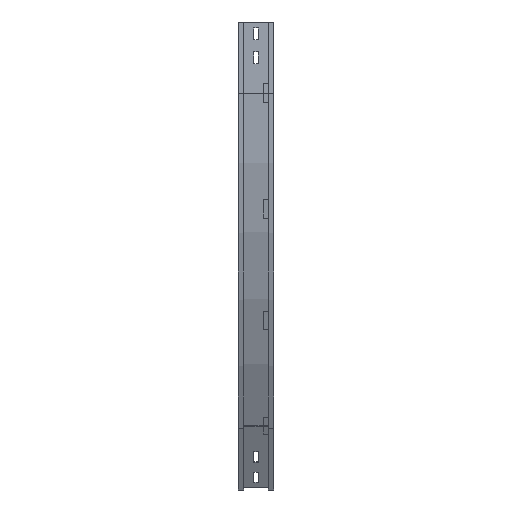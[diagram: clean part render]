
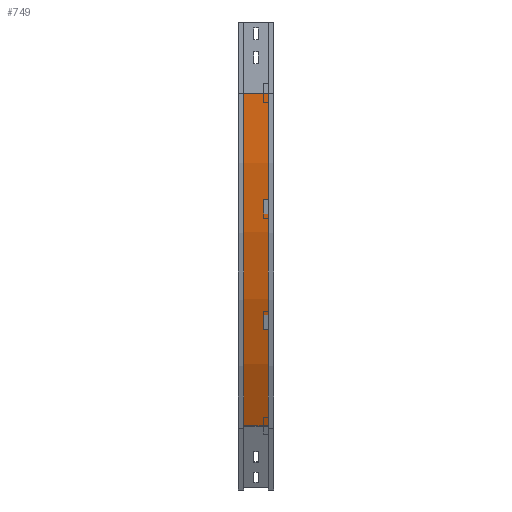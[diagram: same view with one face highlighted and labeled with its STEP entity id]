
A CAD part, left-side view. The second image highlights one B-rep face of the part: STEP entity #749.
In plain terms, the highlighted cylindrical face has radius 1400 mm (diameter 2800 mm), a partial arc.
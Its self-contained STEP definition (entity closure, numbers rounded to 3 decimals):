
#155 = DIRECTION ( 'NONE',  ( 0., -1., 0. ) ) ;
#267 = EDGE_CURVE ( 'NONE', #662, #1632, #2316, .T. ) ;
#405 = FACE_OUTER_BOUND ( 'NONE', #1973, .T. ) ;
#434 = CARTESIAN_POINT ( 'NONE',  ( 9., 12., -150. ) ) ;
#484 = CARTESIAN_POINT ( 'NONE',  ( 9., 12., -150. ) ) ;
#486 = DIRECTION ( 'NONE',  ( -1., 0., 0. ) ) ;
#490 = VECTOR ( 'NONE', #760, 1000. ) ;
#662 = VERTEX_POINT ( 'NONE', #1424 ) ;
#682 = CYLINDRICAL_SURFACE ( 'NONE', #2872, 1400. ) ;
#743 = VERTEX_POINT ( 'NONE', #434 ) ;
#749 = ADVANCED_FACE ( 'NONE', ( #405 ), #682, .T. ) ;
#760 = DIRECTION ( 'NONE',  ( 0., -1., 0. ) ) ;
#825 = EDGE_CURVE ( 'NONE', #743, #1632, #2656, .T. ) ;
#966 = DIRECTION ( 'NONE',  ( 0., -1., 0. ) ) ;
#984 = CARTESIAN_POINT ( 'NONE',  ( 1409., 0., -150. ) ) ;
#1104 = ORIENTED_EDGE ( 'NONE', *, *, #825, .F. ) ;
#1158 = ORIENTED_EDGE ( 'NONE', *, *, #2007, .T. ) ;
#1259 = ORIENTED_EDGE ( 'NONE', *, *, #267, .T. ) ;
#1321 = DIRECTION ( 'NONE',  ( 0., -1., 0. ) ) ;
#1344 = CARTESIAN_POINT ( 'NONE',  ( 196.564, 12., -850. ) ) ;
#1393 = CARTESIAN_POINT ( 'NONE',  ( 9., 63., -150. ) ) ;
#1424 = CARTESIAN_POINT ( 'NONE',  ( 196.564, 63., -850. ) ) ;
#1582 = ORIENTED_EDGE ( 'NONE', *, *, #3398, .F. ) ;
#1632 = VERTEX_POINT ( 'NONE', #1344 ) ;
#1795 = DIRECTION ( 'NONE',  ( 0., 0., -1. ) ) ;
#1824 = VERTEX_POINT ( 'NONE', #1393 ) ;
#1973 = EDGE_LOOP ( 'NONE', ( #1104, #1582, #1158, #1259 ) ) ;
#2003 = AXIS2_PLACEMENT_3D ( 'NONE', #2052, #2832, #3071 ) ;
#2007 = EDGE_CURVE ( 'NONE', #1824, #662, #2399, .T. ) ;
#2052 = CARTESIAN_POINT ( 'NONE',  ( 1409., 12., -150. ) ) ;
#2079 = LINE ( 'NONE', #484, #3017 ) ;
#2316 = LINE ( 'NONE', #3127, #490 ) ;
#2399 = CIRCLE ( 'NONE', #2452, 1400. ) ;
#2452 = AXIS2_PLACEMENT_3D ( 'NONE', #2859, #1321, #486 ) ;
#2656 = CIRCLE ( 'NONE', #2003, 1400. ) ;
#2832 = DIRECTION ( 'NONE',  ( 0., -1., 0. ) ) ;
#2859 = CARTESIAN_POINT ( 'NONE',  ( 1409., 63., -150. ) ) ;
#2872 = AXIS2_PLACEMENT_3D ( 'NONE', #984, #966, #1795 ) ;
#3017 = VECTOR ( 'NONE', #155, 1000. ) ;
#3071 = DIRECTION ( 'NONE',  ( -1., 0., 0. ) ) ;
#3127 = CARTESIAN_POINT ( 'NONE',  ( 196.564, 12., -850. ) ) ;
#3398 = EDGE_CURVE ( 'NONE', #1824, #743, #2079, .T. ) ;
